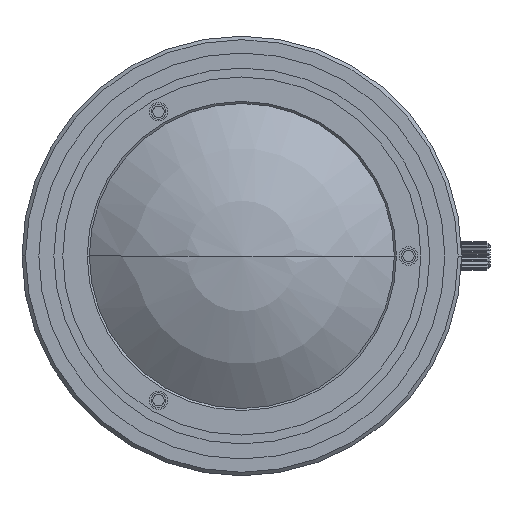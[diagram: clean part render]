
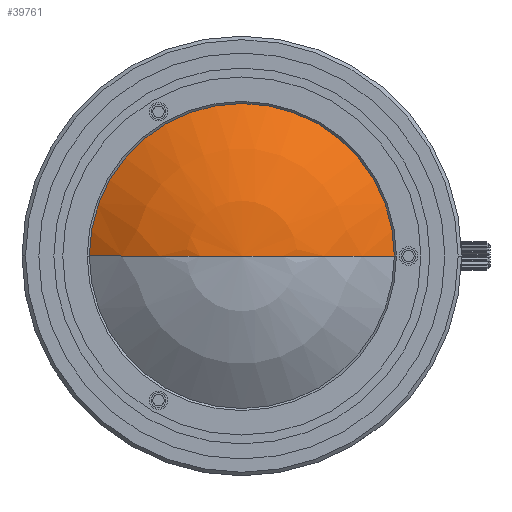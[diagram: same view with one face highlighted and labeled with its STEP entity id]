
A CAD part, left-side view. The second image highlights one B-rep face of the part: STEP entity #39761.
In plain terms, the highlighted spherical face has radius 34.41 mm.
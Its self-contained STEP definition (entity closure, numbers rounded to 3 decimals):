
#4502=CARTESIAN_POINT('',(7.803,0.,0.));
#4503=DIRECTION('',(1.,0.,0.));
#4504=DIRECTION('',(0.,1.,0.));
#4505=AXIS2_PLACEMENT_3D('',#4502,#4503,#4504);
#4507=CARTESIAN_POINT('',(7.803,0.,0.));
#4508=DIRECTION('',(1.,0.,0.));
#4509=DIRECTION('',(0.,0.,1.));
#4510=AXIS2_PLACEMENT_3D('',#4507,#4508,#4509);
#4512=CARTESIAN_POINT('',(34.413,0.,0.));
#4513=DIRECTION('',(0.,0.,-1.));
#4514=DIRECTION('',(-1.,0.,0.));
#4515=AXIS2_PLACEMENT_3D('',#4512,#4513,#4514);
#4527=CARTESIAN_POINT('',(34.413,0.,0.));
#4528=DIRECTION('',(0.,0.,1.));
#4529=DIRECTION('',(-1.,0.,0.));
#4530=AXIS2_PLACEMENT_3D('',#4527,#4528,#4529);
#36205=CARTESIAN_POINT('',(7.803,21.817,
0.));
#36206=VERTEX_POINT('',#36205);
#36209=CARTESIAN_POINT('',(7.803,-21.817,
0.));
#36210=VERTEX_POINT('',#36209);
#36213=CARTESIAN_POINT('',(7.803,0.,
21.817));
#36214=VERTEX_POINT('',#36213);
#36215=CARTESIAN_POINT('',(0.003,0.,0.));
#36216=VERTEX_POINT('',#36215);
#39748=CARTESIAN_POINT('',(34.413,0.,0.));
#39749=DIRECTION('',(1.,0.,0.));
#39750=DIRECTION('',(0.,1.,0.));
#39751=AXIS2_PLACEMENT_3D('',#39748,#39749,#39750);
#39752=SPHERICAL_SURFACE('',#39751,34.41);
#39753=ORIENTED_EDGE('',*,*,#39729,.T.);
#39754=ORIENTED_EDGE('',*,*,#39727,.T.);
#39756=ORIENTED_EDGE('',*,*,#39755,.F.);
#39758=ORIENTED_EDGE('',*,*,#39757,.T.);
#39759=EDGE_LOOP('',(#39753,#39754,#39756,#39758));
#39760=FACE_OUTER_BOUND('',#39759,.F.);
#4506=CIRCLE('',#4505,21.817);
#4511=CIRCLE('',#4510,21.817);
#4516=CIRCLE('',#4515,34.41);
#4531=CIRCLE('',#4530,34.41);
#39727=EDGE_CURVE('',#36214,#36210,#4511,.T.);
#39729=EDGE_CURVE('',#36206,#36214,#4506,.T.);
#39755=EDGE_CURVE('',#36216,#36210,#4531,.T.);
#39757=EDGE_CURVE('',#36216,#36206,#4516,.T.);
#39761=ADVANCED_FACE('',(#39760),#39752,.T.);
